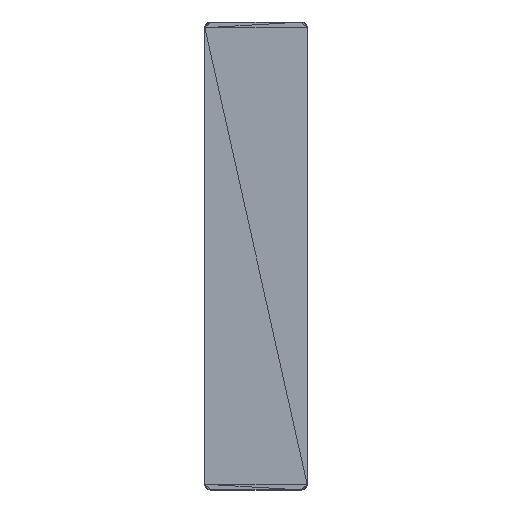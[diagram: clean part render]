
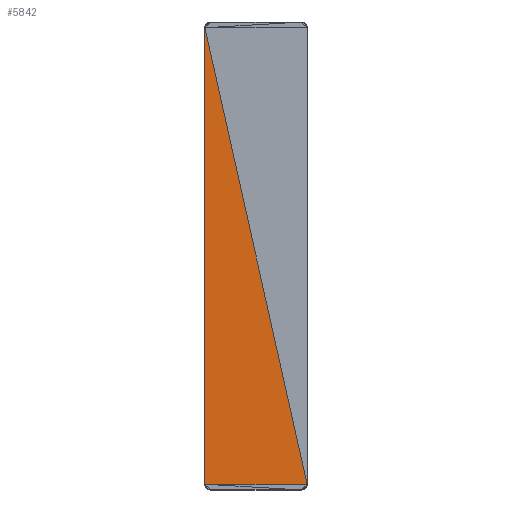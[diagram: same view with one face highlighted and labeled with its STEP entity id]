
A CAD part, top view. The second image highlights one B-rep face of the part: STEP entity #5842.
In plain terms, the highlighted planar face has unit normal (0, 0, 1).
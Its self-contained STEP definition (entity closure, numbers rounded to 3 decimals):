
#4212 = VERTEX_POINT('',#4213);
#4213 = CARTESIAN_POINT('',(-10.5,-33.3,-21.08));
#4618 = PLANE('',#4619);
#4619 = AXIS2_PLACEMENT_3D('',#4620,#4621,#4622);
#4620 = CARTESIAN_POINT('',(0.115,-33.604,
    -21.08));
#4621 = DIRECTION('',(0.,0.,1.));
#4622 = DIRECTION('',(1.,0.,0.));
#4635 = VERTEX_POINT('',#4636);
#4636 = CARTESIAN_POINT('',(10.5,-33.3,-21.08));
#4662 = EDGE_CURVE('',#4635,#4212,#4663,.T.);
#4663 = SURFACE_CURVE('',#4664,(#4668,#4675),.PCURVE_S1.);
#4664 = LINE('',#4665,#4666);
#4665 = CARTESIAN_POINT('',(10.5,-33.3,-21.08));
#4666 = VECTOR('',#4667,1.);
#4667 = DIRECTION('',(-1.,0.,0.));
#4668 = PCURVE('',#4618,#4669);
#4669 = DEFINITIONAL_REPRESENTATION('',(#4670),#4674);
#4670 = LINE('',#4671,#4672);
#4671 = CARTESIAN_POINT('',(10.385,0.304));
#4672 = VECTOR('',#4673,1.);
#4673 = DIRECTION('',(-1.,0.));
#4674 = ( GEOMETRIC_REPRESENTATION_CONTEXT(2) 
PARAMETRIC_REPRESENTATION_CONTEXT() REPRESENTATION_CONTEXT('2D SPACE',''
  ) );
#4675 = PCURVE('',#4676,#4681);
#4676 = PLANE('',#4677);
#4677 = AXIS2_PLACEMENT_3D('',#4678,#4679,#4680);
#4678 = CARTESIAN_POINT('',(-4.668,8.832,
    -21.08));
#4679 = DIRECTION('',(0.,0.,1.));
#4680 = DIRECTION('',(1.,0.,0.));
#4681 = DEFINITIONAL_REPRESENTATION('',(#4682),#4686);
#4682 = LINE('',#4683,#4684);
#4683 = CARTESIAN_POINT('',(15.168,-42.132));
#4684 = VECTOR('',#4685,1.);
#4685 = DIRECTION('',(-1.,0.));
#4686 = ( GEOMETRIC_REPRESENTATION_CONTEXT(2) 
PARAMETRIC_REPRESENTATION_CONTEXT() REPRESENTATION_CONTEXT('2D SPACE',''
  ) );
#5842 = ADVANCED_FACE('',(#5843),#4676,.T.);
#5843 = FACE_BOUND('',#5844,.T.);
#5844 = EDGE_LOOP('',(#5845,#5873,#5874));
#5845 = ORIENTED_EDGE('',*,*,#5846,.T.);
#5846 = EDGE_CURVE('',#5847,#4212,#5849,.T.);
#5847 = VERTEX_POINT('',#5848);
#5848 = CARTESIAN_POINT('',(-10.5,60.3,-21.08));
#5849 = SURFACE_CURVE('',#5850,(#5854,#5861),.PCURVE_S1.);
#5850 = LINE('',#5851,#5852);
#5851 = CARTESIAN_POINT('',(-10.5,60.3,-21.08));
#5852 = VECTOR('',#5853,1.);
#5853 = DIRECTION('',(0.,-1.,0.));
#5854 = PCURVE('',#4676,#5855);
#5855 = DEFINITIONAL_REPRESENTATION('',(#5856),#5860);
#5856 = LINE('',#5857,#5858);
#5857 = CARTESIAN_POINT('',(-5.832,51.468));
#5858 = VECTOR('',#5859,1.);
#5859 = DIRECTION('',(0.,-1.));
#5860 = ( GEOMETRIC_REPRESENTATION_CONTEXT(2) 
PARAMETRIC_REPRESENTATION_CONTEXT() REPRESENTATION_CONTEXT('2D SPACE',''
  ) );
#5861 = PCURVE('',#5862,#5867);
#5862 = PLANE('',#5863);
#5863 = AXIS2_PLACEMENT_3D('',#5864,#5865,#5866);
#5864 = CARTESIAN_POINT('',(-10.5,13.55,-21.13));
#5865 = DIRECTION('',(-1.,0.,0.));
#5866 = DIRECTION('',(0.,0.,-1.));
#5867 = DEFINITIONAL_REPRESENTATION('',(#5868),#5872);
#5868 = LINE('',#5869,#5870);
#5869 = CARTESIAN_POINT('',(-0.05,-46.75));
#5870 = VECTOR('',#5871,1.);
#5871 = DIRECTION('',(0.,1.));
#5872 = ( GEOMETRIC_REPRESENTATION_CONTEXT(2) 
PARAMETRIC_REPRESENTATION_CONTEXT() REPRESENTATION_CONTEXT('2D SPACE',''
  ) );
#5873 = ORIENTED_EDGE('',*,*,#4662,.F.);
#5874 = ORIENTED_EDGE('',*,*,#5875,.F.);
#5875 = EDGE_CURVE('',#5847,#4635,#5876,.T.);
#5876 = SURFACE_CURVE('',#5877,(#5881,#5888),.PCURVE_S1.);
#5877 = LINE('',#5878,#5879);
#5878 = CARTESIAN_POINT('',(-10.5,60.3,-21.08));
#5879 = VECTOR('',#5880,1.);
#5880 = DIRECTION('',(0.219,-0.976,0.));
#5881 = PCURVE('',#4676,#5882);
#5882 = DEFINITIONAL_REPRESENTATION('',(#5883),#5887);
#5883 = LINE('',#5884,#5885);
#5884 = CARTESIAN_POINT('',(-5.832,51.468));
#5885 = VECTOR('',#5886,1.);
#5886 = DIRECTION('',(0.219,-0.976));
#5887 = ( GEOMETRIC_REPRESENTATION_CONTEXT(2) 
PARAMETRIC_REPRESENTATION_CONTEXT() REPRESENTATION_CONTEXT('2D SPACE',''
  ) );
#5888 = PCURVE('',#5889,#5894);
#5889 = PLANE('',#5890);
#5890 = AXIS2_PLACEMENT_3D('',#5891,#5892,#5893);
#5891 = CARTESIAN_POINT('',(4.668,18.168,
    -21.08));
#5892 = DIRECTION('',(0.,0.,1.));
#5893 = DIRECTION('',(1.,0.,0.));
#5894 = DEFINITIONAL_REPRESENTATION('',(#5895),#5899);
#5895 = LINE('',#5896,#5897);
#5896 = CARTESIAN_POINT('',(-15.168,42.132));
#5897 = VECTOR('',#5898,1.);
#5898 = DIRECTION('',(0.219,-0.976));
#5899 = ( GEOMETRIC_REPRESENTATION_CONTEXT(2) 
PARAMETRIC_REPRESENTATION_CONTEXT() REPRESENTATION_CONTEXT('2D SPACE',''
  ) );
